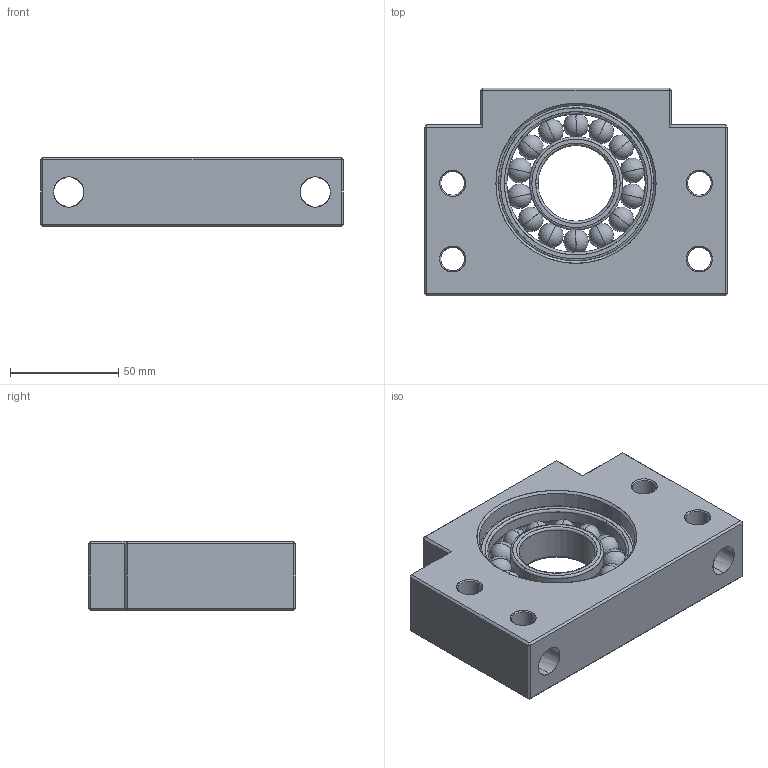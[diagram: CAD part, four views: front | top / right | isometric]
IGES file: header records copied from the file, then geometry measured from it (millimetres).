
Start section: SolidWorks IGES file using analytic representation for surfaces
Bounding box: 140 x 96 x 32 mm (x, y, z)
Surface area: 62324.6 mm2 (no closed solid volume)
Topology: 0 solids, 0 shells, 160 faces, 2436 edges, 2408 vertices
Faces by surface type: revolution 88, bspline 72
